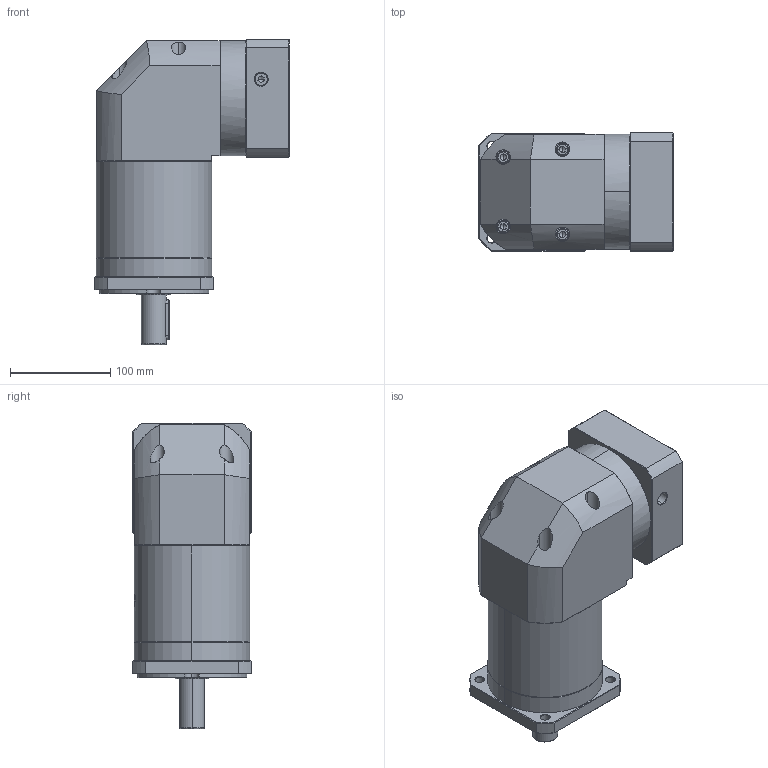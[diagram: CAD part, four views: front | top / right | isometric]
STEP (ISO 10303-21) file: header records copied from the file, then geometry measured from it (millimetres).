
FILE_DESCRIPTION (( 'STEP AP214' ), '1' );
FILE_NAME ('ZFR120A-D25-L3-P2-22-95-115-M8.step', '2023-08-27T08:05:22', ( '' ), ( '' ), 'SwSTEP 2.0', 'SolidWorks 2016', '' );
FILE_SCHEMA (( 'AUTOMOTIVE_DESIGN' ));
Length unit declared in the file: millimetre
Products named in the file (1): ZFR120A-D25-L3-P2-22-95-115-M8
Bounding box: 193.9 x 118 x 305 mm (x, y, z)
Volume: 3487706.7 mm3; surface area: 264570 mm2
Topology: 6 solids, 6 shells, 2266 faces, 5977 edges, 3816 vertices
Faces by surface type: plane 1061, cylinder 434, bspline 425, cone 338, torus 8
Entity records: 124159 total; most frequent: CARTESIAN_POINT 48745, ORIENTED_EDGE 11894, DIRECTION 8623, EDGE_CURVE 5947, VERTEX_POINT 3816, LINE 3159, VECTOR 3159, AXIS2_PLACEMENT_3D 2732
